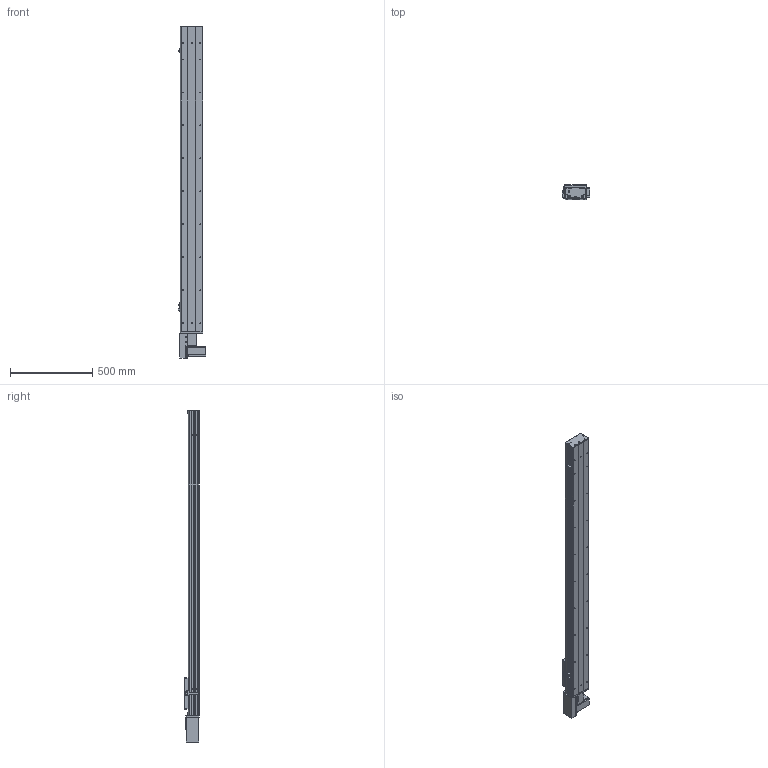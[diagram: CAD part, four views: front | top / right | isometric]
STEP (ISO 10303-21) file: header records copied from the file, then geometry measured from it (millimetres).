
FILE_DESCRIPTION (( 'STEP AP203' ), '1' );
FILE_NAME ('Y135CB-D90-S1550-BR-P400W.STEP', '2020-02-18T02:40:07', ( '微软用户' ), ( '微软中国' ), 'SwSTEP 2.0', 'SolidWorks 2017', '' );
FILE_SCHEMA (( 'CONFIG_CONTROL_DESIGN' ));
Length unit declared in the file: millimetre
Products named in the file (18): C-詩湍揤踡え-陔; 135CB---遴掛极.-; 135CB--詩湍-CE; 35CB---喘謫眊楊擘啣; Y100-135俋离換覜ん--; Y10B-耜蚾蟀諉啣----; Y135C-陔俋离換覜結え-; Y俋欶BR----; 5C--俋欶; 0B-埴倛裔啣; C-雄赽釱--; 0B-源倛裔啣; 0B-萇儂楊擘啣; Y10B--々湍喘謫眊--666; san松下电机400不带刹车----; Y135CB-D90-S1550-BR-P400W; 5CB --掛极耜裔啣-; Y135CB-耜裔
Assembly tree (21 placements, depth 2):
  Y135CB-D90-S1550-BR-P400W
    Y135CB-耜裔
    135CB---遴掛极.-
    35CB---喘謫眊楊擘啣
    Y10B-耜蚾蟀諉啣----
    Y俋欶BR----
    0B-埴倛裔啣
    0B-源倛裔啣
    0B-萇儂楊擘啣
    san松下电机400不带刹车----
    5CB --掛极耜裔啣-  x2
    C-詩湍揤踡え-陔  x2
    135CB--詩湍-CE
    Y100-135俋离換覜ん--  x3
    Y135C-陔俋离換覜結え-
    5C--俋欶
    C-雄赽釱--
    Y10B--々湍喘謫眊--666
Bounding box: 167.5 x 91 x 2014.5 mm (x, y, z)
Volume: 5815546.6 mm3; surface area: 2290738.6 mm2
Topology: 21 solids, 21 shells, 957 faces, 2581 edges, 1710 vertices
Faces by surface type: cylinder 483, plane 458, cone 16
Entity records: 29947 total; most frequent: DIRECTION 4973, CARTESIAN_POINT 4944, ORIENTED_EDGE 4638, EDGE_CURVE 2319, AXIS2_PLACEMENT_3D 1815, VERTEX_POINT 1538, LINE 1343, VECTOR 1343
